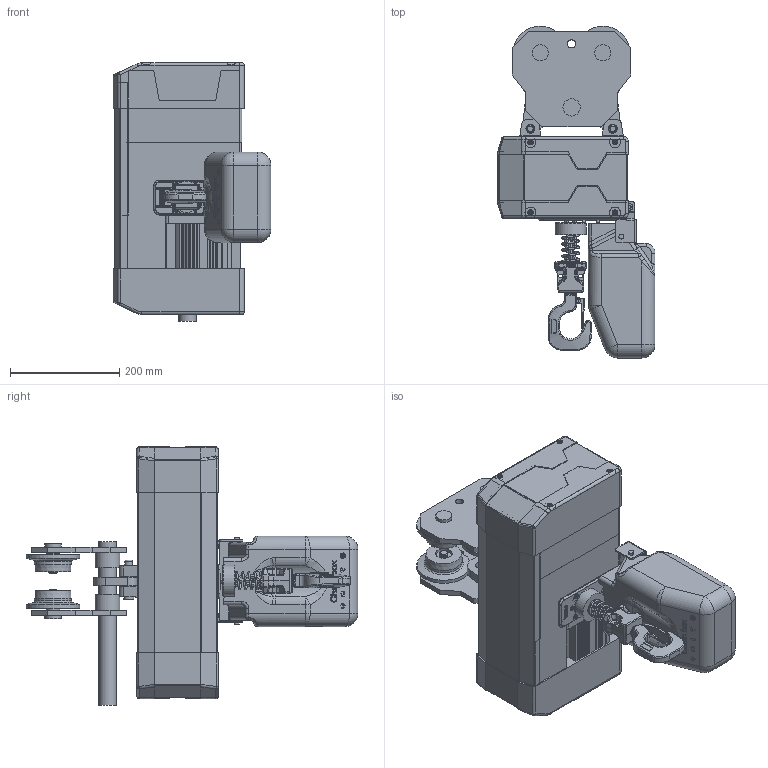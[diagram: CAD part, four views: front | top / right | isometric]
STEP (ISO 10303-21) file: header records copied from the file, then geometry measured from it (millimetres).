
FILE_DESCRIPTION(/* description */ ('CAx-IF Rec.Pracs.---Representation and Presentation of Product Manufacturing Information (PMI)---4.0---2014-10-13','CAx-IF Rec.Pracs.---3D Tessellated Geometry---0.4---2014-09-14','2;1'),/* implementation_level */ '2;1');
FILE_NAME(/* name */ 'YJ 0.5-01 手拉式',/* time_stamp */ '2026-06-03T10:11:02+08:00',/* author */ (''),/* organization */ (''),/* preprocessor_version */ 'ST-DEVELOPER v16.7',/* originating_system */ $,/* authorisation */ $);
FILE_SCHEMA (('AP242_MANAGED_MODEL_BASED_3D_ENGINEERING_MIM_LF { 1 0 10303 442 20130219 1 4 }'));
Products named in the file (1): YJ 0.5-01 手拉式
Bounding box: 289.59 x 608.48 x 474.43 mm (x, y, z)
Volume: 12873560.1 mm3; surface area: 1570026.8 mm2
Topology: 20 solids, 28 shells, 3312 faces, 8135 edges, 4986 vertices
Faces by surface type: plane 1363, cylinder 928, bspline 502, torus 256, cone 185, sphere 78
Full cylindrical faces by diameter (mm): 1.467 x1, 1.707 x1, 2.14 x1, 4 x2, 4.2 x4, 4.5 x4, 4.826 x4, 5 x2, 5.795 x4, 5.8 x2, 6 x2, 6.2 x3, 6.6 x8, 6.8 x4, 7 x2, 7.46 x1, 8.5 x4, 9 x5, 10 x4, 10.2 x8, 11 x1, 12.8 x4, 13.5 x4, 14 x2, 15 x10, 15.037 x4, 15.5 x2, 16.8 x2, 18 x2, 20 x1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
Entity records: 110242 total; most frequent: CARTESIAN_POINT 36212, ORIENTED_EDGE 15390, DIRECTION 14597, EDGE_CURVE 7695, AXIS2_PLACEMENT_3D 5258, VERTEX_POINT 4886, LINE 4097, VECTOR 4097
